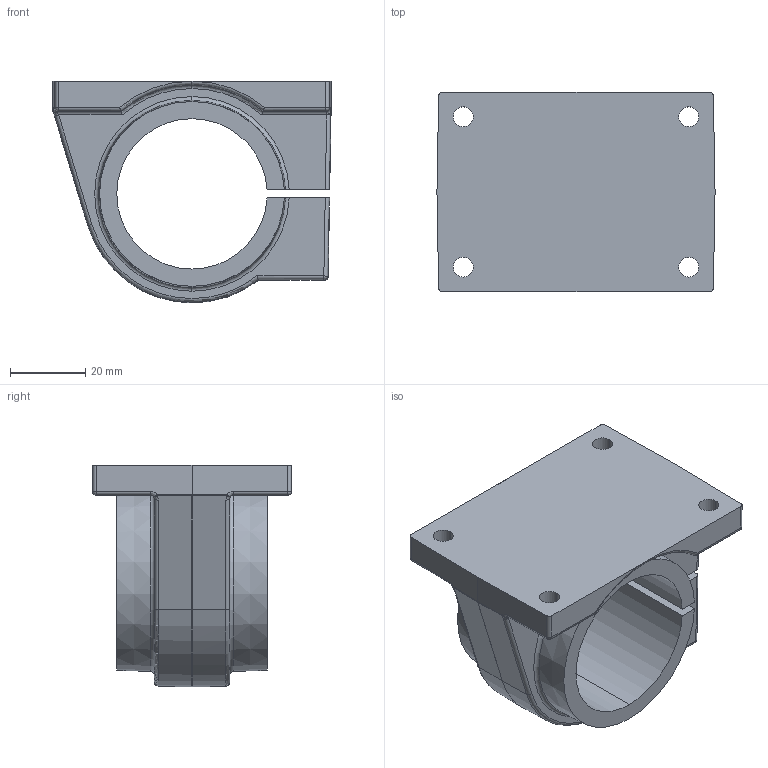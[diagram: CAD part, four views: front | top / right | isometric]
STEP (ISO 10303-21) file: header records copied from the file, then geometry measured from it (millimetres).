
FILE_DESCRIPTION (( 'STEP AP203' ), '1' );
FILE_NAME ('KGGE66-25.step', '2020-03-10T16:26:43', ( '' ), ( '' ), 'SwSTEP 2.0', 'SolidWorks 2019', '' );
FILE_SCHEMA (( 'CONFIG_CONTROL_DESIGN' ));
Length unit declared in the file: millimetre
Products named in the file (2): KGGE66-25
Bounding box: 73.98 x 53 x 59 mm (x, y, z)
Volume: 73050.5 mm3; surface area: 24301.3 mm2
Topology: 1 solids, 1 shells, 137 faces, 327 edges, 193 vertices
Faces by surface type: cylinder 59, plane 32, torus 18, cone 11, sphere 9, bspline 8
Entity records: 4306 total; most frequent: CARTESIAN_POINT 1040, DIRECTION 678, ORIENTED_EDGE 646, EDGE_CURVE 323, AXIS2_PLACEMENT_3D 275, VERTEX_POINT 193, EDGE_LOOP 152, CIRCLE 144
